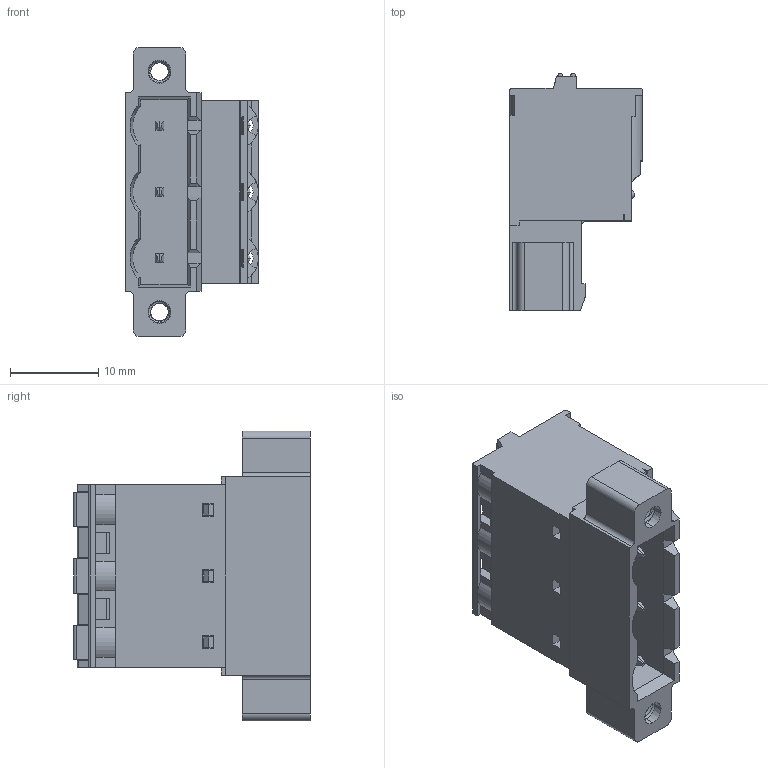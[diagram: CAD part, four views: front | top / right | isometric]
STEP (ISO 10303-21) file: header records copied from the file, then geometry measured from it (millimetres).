
FILE_DESCRIPTION((''),'2;1');
FILE_NAME('H503A0X20000G','2019-05-29T',('zhenbing.lai'),(''),'CREO PARAMETRIC BY PTC INC, 2016260','CREO PARAMETRIC BY PTC INC, 2016260','');
FILE_SCHEMA(('CONFIG_CONTROL_DESIGN'));
Length unit declared in the file: millimetre
Products named in the file (1): H503A0X20000G
Bounding box: 15.02 x 26.8 x 32.8 mm (x, y, z)
Volume: 5618 mm3; surface area: 3788.4 mm2
Topology: 1 solids, 5 shells, 498 faces, 1383 edges, 901 vertices
Faces by surface type: plane 359, cylinder 92, cone 19, bspline 19, sphere 9
Entity records: 23086 total; most frequent: CARTESIAN_POINT 10584, ORIENTED_EDGE 2748, DIRECTION 2330, EDGE_CURVE 1374, VECTOR 996, LINE 996, VERTEX_POINT 901, AXIS2_PLACEMENT_3D 667
